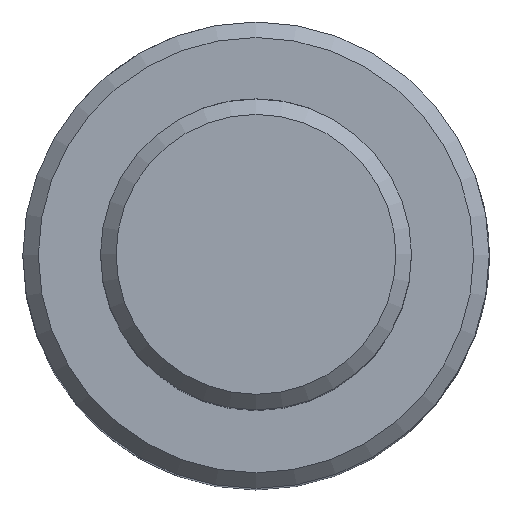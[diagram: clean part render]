
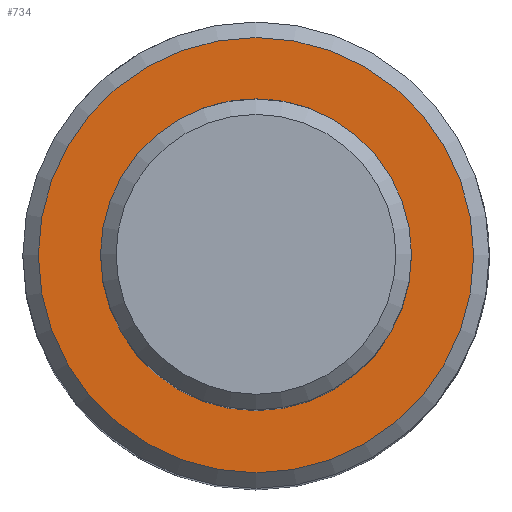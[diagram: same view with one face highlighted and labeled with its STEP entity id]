
A CAD part, top view. The second image highlights one B-rep face of the part: STEP entity #734.
In plain terms, the highlighted planar face has unit normal (0, 0, 1).
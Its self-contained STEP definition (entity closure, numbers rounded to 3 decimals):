
#612 = VERTEX_POINT('',#613);
#613 = CARTESIAN_POINT('',(14.,0.,60.));
#621 = EDGE_CURVE('',#612,#612,#622,.T.);
#622 = CIRCLE('',#623,14.);
#623 = AXIS2_PLACEMENT_3D('',#624,#625,#626);
#624 = CARTESIAN_POINT('',(0.,0.,60.));
#625 = DIRECTION('',(0.,0.,1.));
#626 = DIRECTION('',(1.,0.,-0.));
#734 = ADVANCED_FACE('',(#735,#738),#749,.T.);
#735 = FACE_BOUND('',#736,.T.);
#736 = EDGE_LOOP('',(#737));
#737 = ORIENTED_EDGE('',*,*,#621,.T.);
#738 = FACE_BOUND('',#739,.T.);
#739 = EDGE_LOOP('',(#740));
#740 = ORIENTED_EDGE('',*,*,#741,.F.);
#741 = EDGE_CURVE('',#742,#742,#744,.T.);
#742 = VERTEX_POINT('',#743);
#743 = CARTESIAN_POINT('',(10.,0.,60.));
#744 = CIRCLE('',#745,10.);
#745 = AXIS2_PLACEMENT_3D('',#746,#747,#748);
#746 = CARTESIAN_POINT('',(0.,0.,60.));
#747 = DIRECTION('',(0.,0.,1.));
#748 = DIRECTION('',(1.,0.,-0.));
#749 = PLANE('',#750);
#750 = AXIS2_PLACEMENT_3D('',#751,#752,#753);
#751 = CARTESIAN_POINT('',(0.,0.,60.));
#752 = DIRECTION('',(0.,0.,1.));
#753 = DIRECTION('',(1.,0.,-0.));
